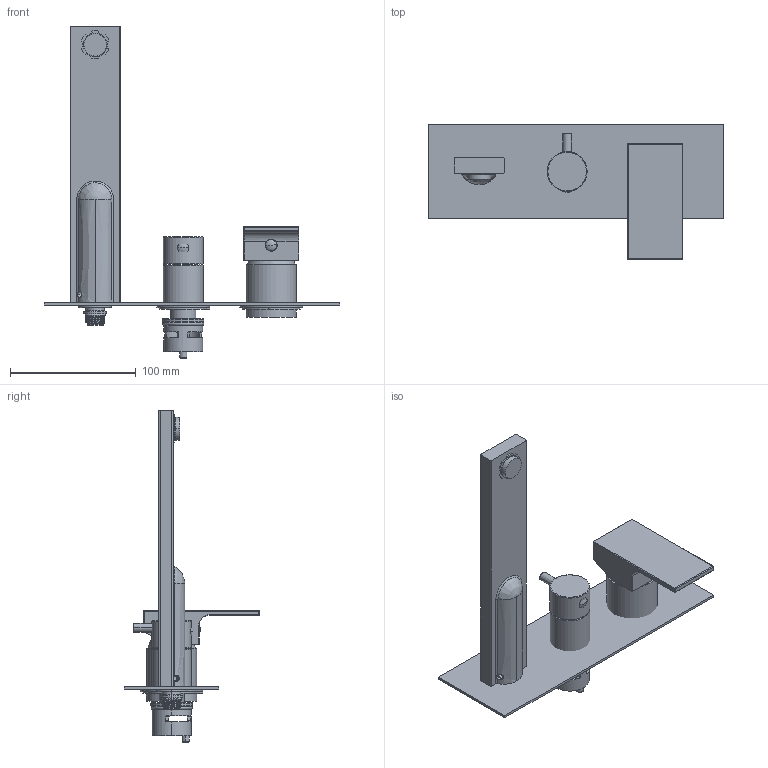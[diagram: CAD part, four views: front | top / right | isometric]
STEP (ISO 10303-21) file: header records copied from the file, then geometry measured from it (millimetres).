
FILE_DESCRIPTION((''),'2;1');
FILE_NAME('35528V2_SW0001','2023-06-01T10:57:11',('volponeff'),(''),'CREO PARAMETRIC BY PTC INC, 2022014','CREO PARAMETRIC BY PTC INC, 2022014','');
FILE_SCHEMA(('CONFIG_CONTROL_DESIGN'));
Length unit declared in the file: millimetre
Products named in the file (1): 35528V2_SW0001
Bounding box: 235 x 107.5 x 264.1 mm (x, y, z)
Surface area: 112036.4 mm2 (no closed solid volume)
Topology: 0 solids, 31 shells, 308 faces, 894 edges, 606 vertices
Faces by surface type: cylinder 119, plane 82, cone 36, torus 29, bspline 28, sphere 14
Entity records: 13381 total; most frequent: CARTESIAN_POINT 5516, DIRECTION 1685, ORIENTED_EDGE 1498, EDGE_CURVE 889, AXIS2_PLACEMENT_3D 667, VERTEX_POINT 606, CIRCLE 387, VECTOR 351
